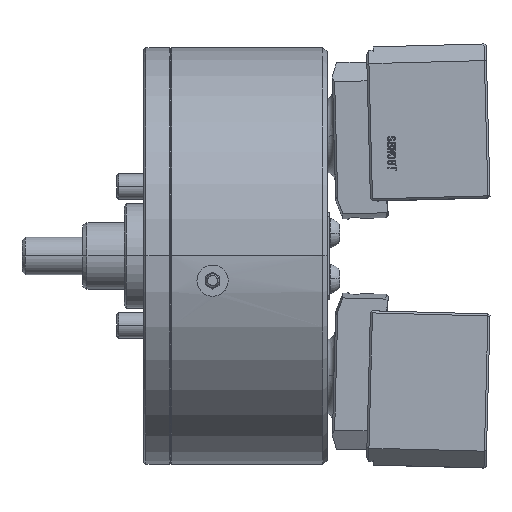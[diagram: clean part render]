
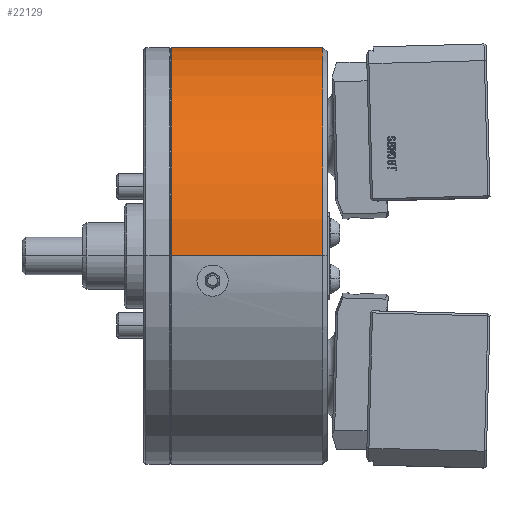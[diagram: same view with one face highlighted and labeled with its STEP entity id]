
A CAD part, top view. The second image highlights one B-rep face of the part: STEP entity #22129.
In plain terms, the highlighted cylindrical face has radius 100 mm (diameter 200 mm), a partial arc.
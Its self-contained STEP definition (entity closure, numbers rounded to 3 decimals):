
#887 = VECTOR ( 'NONE', #15335, 1000. ) ;
#2704 = ORIENTED_EDGE ( 'NONE', *, *, #50989, .F. ) ;
#4885 = AXIS2_PLACEMENT_3D ( 'NONE', #32128, #32466, #32774 ) ;
#8116 = ORIENTED_EDGE ( 'NONE', *, *, #51063, .F. ) ;
#9527 = CARTESIAN_POINT ( 'NONE',  ( -2., 0., 100. ) ) ;
#11983 = CYLINDRICAL_SURFACE ( 'NONE', #4885, 100. ) ;
#12422 = EDGE_LOOP ( 'NONE', ( #42220, #35718, #2704, #8116 ) ) ;
#13287 = FACE_OUTER_BOUND ( 'NONE', #12422, .T. ) ;
#15335 = DIRECTION ( 'NONE',  ( 1., 0., 0. ) ) ;
#19292 = CARTESIAN_POINT ( 'NONE',  ( -2., 0., -100. ) ) ;
#20162 = LINE ( 'NONE', #39975, #887 ) ;
#20508 = VERTEX_POINT ( 'NONE', #9527 ) ;
#21418 = DIRECTION ( 'NONE',  ( 0., 0., -1. ) ) ;
#21470 = DIRECTION ( 'NONE',  ( 1., 0., 0. ) ) ;
#21486 = CARTESIAN_POINT ( 'NONE',  ( -74.6, 0., 0. ) ) ;
#22129 = ADVANCED_FACE ( 'NONE', ( #13287 ), #11983, .T. ) ;
#23262 = AXIS2_PLACEMENT_3D ( 'NONE', #47774, #23352, #51859 ) ;
#23349 = LINE ( 'NONE', #28423, #43815 ) ;
#23352 = DIRECTION ( 'NONE',  ( 1., 0., 0. ) ) ;
#24627 = AXIS2_PLACEMENT_3D ( 'NONE', #21486, #21470, #21418 ) ;
#24902 = CARTESIAN_POINT ( 'NONE',  ( -74.6, 0., 100. ) ) ;
#28423 = CARTESIAN_POINT ( 'NONE',  ( 9.899, 0., -100. ) ) ;
#32128 = CARTESIAN_POINT ( 'NONE',  ( 9.899, 0., 0. ) ) ;
#32466 = DIRECTION ( 'NONE',  ( 1., 0., 0. ) ) ;
#32774 = DIRECTION ( 'NONE',  ( 0., 0., -1. ) ) ;
#34359 = CARTESIAN_POINT ( 'NONE',  ( -74.6, 0., -100. ) ) ;
#35718 = ORIENTED_EDGE ( 'NONE', *, *, #50825, .T. ) ;
#36863 = CIRCLE ( 'NONE', #23262, 100. ) ;
#37964 = VERTEX_POINT ( 'NONE', #24902 ) ;
#38035 = EDGE_CURVE ( 'NONE', #43002, #37964, #39076, .T. ) ;
#39076 = CIRCLE ( 'NONE', #24627, 100. ) ;
#39975 = CARTESIAN_POINT ( 'NONE',  ( 9.899, 0., 100. ) ) ;
#42220 = ORIENTED_EDGE ( 'NONE', *, *, #38035, .T. ) ;
#43002 = VERTEX_POINT ( 'NONE', #34359 ) ;
#43815 = VECTOR ( 'NONE', #44778, 1000. ) ;
#44778 = DIRECTION ( 'NONE',  ( 1., 0., 0. ) ) ;
#45849 = VERTEX_POINT ( 'NONE', #19292 ) ;
#47774 = CARTESIAN_POINT ( 'NONE',  ( -2., 0., 0. ) ) ;
#50825 = EDGE_CURVE ( 'NONE', #37964, #20508, #20162, .T. ) ;
#50989 = EDGE_CURVE ( 'NONE', #45849, #20508, #36863, .T. ) ;
#51063 = EDGE_CURVE ( 'NONE', #43002, #45849, #23349, .T. ) ;
#51859 = DIRECTION ( 'NONE',  ( 0., 0., -1. ) ) ;
